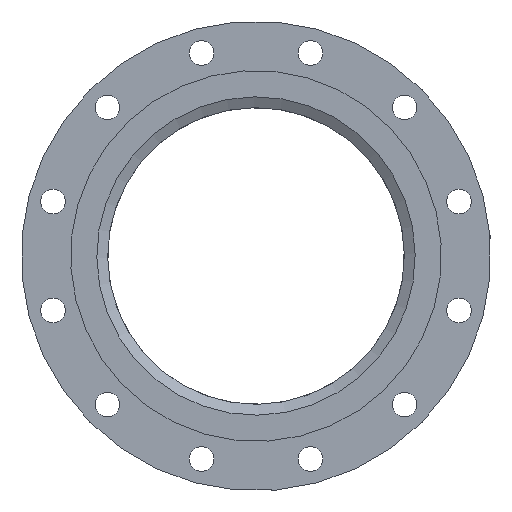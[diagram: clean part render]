
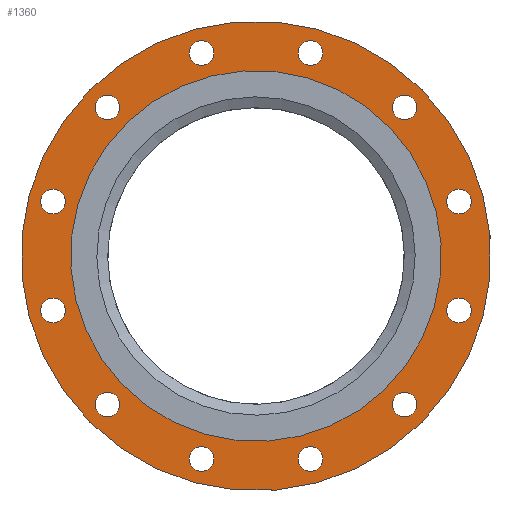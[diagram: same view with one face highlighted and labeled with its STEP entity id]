
A CAD part, front view. The second image highlights one B-rep face of the part: STEP entity #1360.
In plain terms, the highlighted planar face has unit normal (0, -1, 0).
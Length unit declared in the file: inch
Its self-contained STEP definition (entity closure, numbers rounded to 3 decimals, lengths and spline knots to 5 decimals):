
#46=PLANE('',#1494);
#120=FACE_BOUND('',#389,.T.);
#121=FACE_BOUND('',#390,.T.);
#122=FACE_BOUND('',#391,.T.);
#123=FACE_BOUND('',#392,.T.);
#124=FACE_BOUND('',#393,.T.);
#125=FACE_BOUND('',#394,.T.);
#126=FACE_BOUND('',#395,.T.);
#127=FACE_BOUND('',#396,.T.);
#128=FACE_BOUND('',#397,.T.);
#129=FACE_BOUND('',#398,.T.);
#130=FACE_BOUND('',#399,.T.);
#131=FACE_BOUND('',#400,.T.);
#132=FACE_BOUND('',#401,.T.);
#245=FACE_OUTER_BOUND('',#388,.T.);
#388=EDGE_LOOP('',(#1013));
#389=EDGE_LOOP('',(#1014));
#390=EDGE_LOOP('',(#1015));
#391=EDGE_LOOP('',(#1016));
#392=EDGE_LOOP('',(#1017));
#393=EDGE_LOOP('',(#1018));
#394=EDGE_LOOP('',(#1019));
#395=EDGE_LOOP('',(#1020));
#396=EDGE_LOOP('',(#1021));
#397=EDGE_LOOP('',(#1022));
#398=EDGE_LOOP('',(#1023));
#399=EDGE_LOOP('',(#1024));
#400=EDGE_LOOP('',(#1025));
#401=EDGE_LOOP('',(#1026));
#609=CIRCLE('',#1495,9.5);
#610=CIRCLE('',#1496,0.5);
#611=CIRCLE('',#1497,0.5);
#612=CIRCLE('',#1498,0.5);
#613=CIRCLE('',#1499,0.5);
#614=CIRCLE('',#1500,0.5);
#615=CIRCLE('',#1501,0.5);
#616=CIRCLE('',#1502,0.5);
#617=CIRCLE('',#1503,0.5);
#618=CIRCLE('',#1504,0.5);
#619=CIRCLE('',#1505,0.5);
#620=CIRCLE('',#1506,0.5);
#621=CIRCLE('',#1507,0.5);
#622=CIRCLE('',#1508,7.5);
#734=VERTEX_POINT('',#2207);
#735=VERTEX_POINT('',#2209);
#736=VERTEX_POINT('',#2211);
#737=VERTEX_POINT('',#2213);
#738=VERTEX_POINT('',#2215);
#739=VERTEX_POINT('',#2217);
#740=VERTEX_POINT('',#2219);
#741=VERTEX_POINT('',#2221);
#742=VERTEX_POINT('',#2223);
#743=VERTEX_POINT('',#2225);
#744=VERTEX_POINT('',#2227);
#745=VERTEX_POINT('',#2229);
#746=VERTEX_POINT('',#2231);
#747=VERTEX_POINT('',#2233);
#859=EDGE_CURVE('',#734,#734,#609,.T.);
#860=EDGE_CURVE('',#735,#735,#610,.T.);
#861=EDGE_CURVE('',#736,#736,#611,.T.);
#862=EDGE_CURVE('',#737,#737,#612,.T.);
#863=EDGE_CURVE('',#738,#738,#613,.T.);
#864=EDGE_CURVE('',#739,#739,#614,.T.);
#865=EDGE_CURVE('',#740,#740,#615,.T.);
#866=EDGE_CURVE('',#741,#741,#616,.T.);
#867=EDGE_CURVE('',#742,#742,#617,.T.);
#868=EDGE_CURVE('',#743,#743,#618,.T.);
#869=EDGE_CURVE('',#744,#744,#619,.T.);
#870=EDGE_CURVE('',#745,#745,#620,.T.);
#871=EDGE_CURVE('',#746,#746,#621,.T.);
#872=EDGE_CURVE('',#747,#747,#622,.T.);
#1013=ORIENTED_EDGE('',*,*,#859,.T.);
#1014=ORIENTED_EDGE('',*,*,#860,.T.);
#1015=ORIENTED_EDGE('',*,*,#861,.T.);
#1016=ORIENTED_EDGE('',*,*,#862,.T.);
#1017=ORIENTED_EDGE('',*,*,#863,.T.);
#1018=ORIENTED_EDGE('',*,*,#864,.T.);
#1019=ORIENTED_EDGE('',*,*,#865,.T.);
#1020=ORIENTED_EDGE('',*,*,#866,.T.);
#1021=ORIENTED_EDGE('',*,*,#867,.T.);
#1022=ORIENTED_EDGE('',*,*,#868,.T.);
#1023=ORIENTED_EDGE('',*,*,#869,.T.);
#1024=ORIENTED_EDGE('',*,*,#870,.T.);
#1025=ORIENTED_EDGE('',*,*,#871,.T.);
#1026=ORIENTED_EDGE('',*,*,#872,.F.);
#1360=ADVANCED_FACE('',(#245,#120,#121,#122,#123,#124,#125,#126,#127,#128,
#129,#130,#131,#132),#46,.T.);
#1494=AXIS2_PLACEMENT_3D('',#2206,#1771,#1772);
#1495=AXIS2_PLACEMENT_3D('',#2208,#1773,#1774);
#1496=AXIS2_PLACEMENT_3D('',#2210,#1775,#1776);
#1497=AXIS2_PLACEMENT_3D('',#2212,#1777,#1778);
#1498=AXIS2_PLACEMENT_3D('',#2214,#1779,#1780);
#1499=AXIS2_PLACEMENT_3D('',#2216,#1781,#1782);
#1500=AXIS2_PLACEMENT_3D('',#2218,#1783,#1784);
#1501=AXIS2_PLACEMENT_3D('',#2220,#1785,#1786);
#1502=AXIS2_PLACEMENT_3D('',#2222,#1787,#1788);
#1503=AXIS2_PLACEMENT_3D('',#2224,#1789,#1790);
#1504=AXIS2_PLACEMENT_3D('',#2226,#1791,#1792);
#1505=AXIS2_PLACEMENT_3D('',#2228,#1793,#1794);
#1506=AXIS2_PLACEMENT_3D('',#2230,#1795,#1796);
#1507=AXIS2_PLACEMENT_3D('',#2232,#1797,#1798);
#1508=AXIS2_PLACEMENT_3D('',#2234,#1799,#1800);
#1771=DIRECTION('center_axis',(0.,-1.,0.));
#1772=DIRECTION('ref_axis',(-0.966,0.,0.259));
#1773=DIRECTION('center_axis',(0.,-1.,0.));
#1774=DIRECTION('ref_axis',(-0.966,0.,0.259));
#1775=DIRECTION('center_axis',(0.,1.,0.));
#1776=DIRECTION('ref_axis',(-0.966,0.,-0.259));
#1777=DIRECTION('center_axis',(0.,1.,0.));
#1778=DIRECTION('ref_axis',(-0.707,0.,-0.707));
#1779=DIRECTION('center_axis',(0.,1.,0.));
#1780=DIRECTION('ref_axis',(-0.259,0.,-0.966));
#1781=DIRECTION('center_axis',(0.,1.,0.));
#1782=DIRECTION('ref_axis',(0.259,0.,-0.966));
#1783=DIRECTION('center_axis',(0.,1.,0.));
#1784=DIRECTION('ref_axis',(0.707,0.,-0.707));
#1785=DIRECTION('center_axis',(0.,1.,0.));
#1786=DIRECTION('ref_axis',(0.966,0.,-0.259));
#1787=DIRECTION('center_axis',(0.,1.,0.));
#1788=DIRECTION('ref_axis',(0.966,0.,0.259));
#1789=DIRECTION('center_axis',(0.,1.,0.));
#1790=DIRECTION('ref_axis',(0.707,0.,0.707));
#1791=DIRECTION('center_axis',(0.,1.,0.));
#1792=DIRECTION('ref_axis',(0.259,0.,0.966));
#1793=DIRECTION('center_axis',(0.,1.,0.));
#1794=DIRECTION('ref_axis',(-0.259,0.,0.966));
#1795=DIRECTION('center_axis',(0.,1.,0.));
#1796=DIRECTION('ref_axis',(-0.707,0.,0.707));
#1797=DIRECTION('center_axis',(0.,1.,0.));
#1798=DIRECTION('ref_axis',(-0.966,0.,0.259));
#1799=DIRECTION('center_axis',(0.,-1.,0.));
#1800=DIRECTION('ref_axis',(-0.998,0.,-0.066));
#2206=CARTESIAN_POINT('Origin',(0.,0.5,
0.));
#2207=CARTESIAN_POINT('',(9.1763,0.5,-2.45878));
#2208=CARTESIAN_POINT('Origin',(0.,0.5,
0.));
#2209=CARTESIAN_POINT('',(1.717,0.5,-8.33978));
#2210=CARTESIAN_POINT('Origin',(2.19996,0.5,-8.21037));
#2211=CARTESIAN_POINT('',(5.65685,0.5,-6.36396));
#2212=CARTESIAN_POINT('Origin',(6.01041,0.5,-6.01041));
#2213=CARTESIAN_POINT('',(8.08096,0.5,-2.68292));
#2214=CARTESIAN_POINT('Origin',(8.21037,0.5,-2.19996));
#2215=CARTESIAN_POINT('',(8.33978,0.5,1.717));
#2216=CARTESIAN_POINT('Origin',(8.21037,0.5,2.19996));
#2217=CARTESIAN_POINT('',(6.36396,0.5,5.65685));
#2218=CARTESIAN_POINT('Origin',(6.01041,0.5,6.01041));
#2219=CARTESIAN_POINT('',(2.68292,0.5,8.08096));
#2220=CARTESIAN_POINT('Origin',(2.19996,0.5,8.21037));
#2221=CARTESIAN_POINT('',(-1.717,0.5,8.33978));
#2222=CARTESIAN_POINT('Origin',(-2.19996,0.5,8.21037));
#2223=CARTESIAN_POINT('',(-5.65685,0.5,6.36396));
#2224=CARTESIAN_POINT('Origin',(-6.01041,0.5,6.01041));
#2225=CARTESIAN_POINT('',(-8.08096,0.5,2.68292));
#2226=CARTESIAN_POINT('Origin',(-8.21037,0.5,2.19996));
#2227=CARTESIAN_POINT('',(-8.33978,0.5,-1.717));
#2228=CARTESIAN_POINT('Origin',(-8.21037,0.5,-2.19996));
#2229=CARTESIAN_POINT('',(-6.36396,0.5,-5.65685));
#2230=CARTESIAN_POINT('Origin',(-6.01041,0.5,-6.01041));
#2231=CARTESIAN_POINT('',(-2.68292,0.5,-8.08096));
#2232=CARTESIAN_POINT('Origin',(-2.19996,0.5,-8.21037));
#2233=CARTESIAN_POINT('',(7.48341,0.5,0.49857));
#2234=CARTESIAN_POINT('Origin',(0.,0.5,0.));
